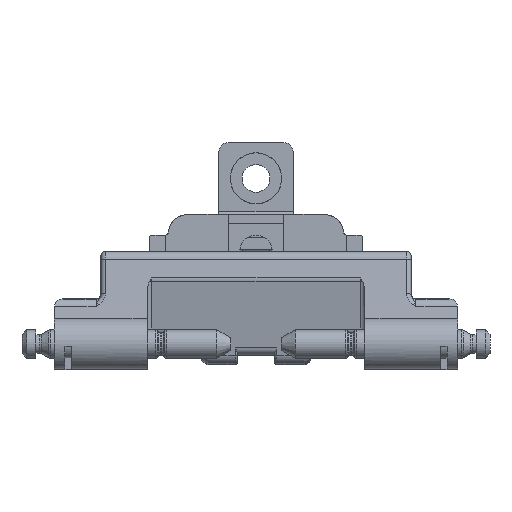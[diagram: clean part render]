
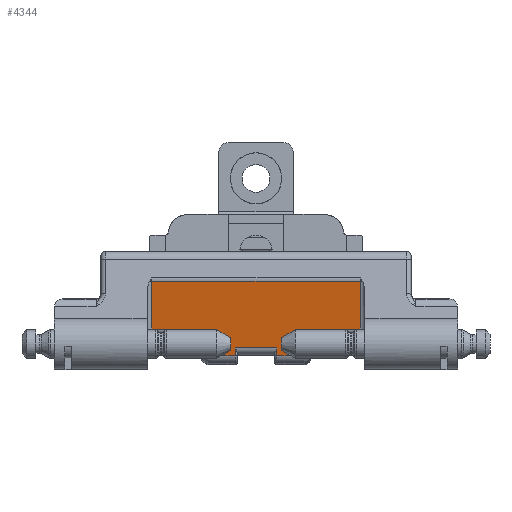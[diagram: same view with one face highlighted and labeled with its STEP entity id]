
A CAD part, left-side view. The second image highlights one B-rep face of the part: STEP entity #4344.
In plain terms, the highlighted planar face has unit normal (-0.985, 0, -0.174).
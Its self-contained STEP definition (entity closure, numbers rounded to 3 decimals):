
#33 = AXIS2_PLACEMENT_3D ( 'NONE', #13171, #4334, #12117 ) ;
#373 = DIRECTION ( 'NONE',  ( -0.174, 0., 0.985 ) ) ;
#484 = LINE ( 'NONE', #11380, #3075 ) ;
#540 = CARTESIAN_POINT ( 'NONE',  ( -270.049, -22.5, -9.44 ) ) ;
#660 = CARTESIAN_POINT ( 'NONE',  ( -267.883, -10., -21.726 ) ) ;
#706 = DIRECTION ( 'NONE',  ( -0.985, 0., -0.174 ) ) ;
#742 = VERTEX_POINT ( 'NONE', #5051 ) ;
#752 = CARTESIAN_POINT ( 'NONE',  ( -268.23, 12., -19.757 ) ) ;
#836 = CARTESIAN_POINT ( 'NONE',  ( -267.215, 10., -25.513 ) ) ;
#960 = ORIENTED_EDGE ( 'NONE', *, *, #5712, .T. ) ;
#1057 = ORIENTED_EDGE ( 'NONE', *, *, #11150, .T. ) ;
#1233 = VERTEX_POINT ( 'NONE', #11835 ) ;
#1389 = CARTESIAN_POINT ( 'NONE',  ( -267.215, 23.5, -25.513 ) ) ;
#1671 = LINE ( 'NONE', #1389, #9820 ) ;
#1735 = CARTESIAN_POINT ( 'NONE',  ( -267.215, -10., -25.513 ) ) ;
#1772 = DIRECTION ( 'NONE',  ( -0.174, 0., 0.985 ) ) ;
#1889 = CARTESIAN_POINT ( 'NONE',  ( -267.015, 22.5, -26.65 ) ) ;
#2050 = AXIS2_PLACEMENT_3D ( 'NONE', #7380, #706, #8467 ) ;
#2053 = ORIENTED_EDGE ( 'NONE', *, *, #12951, .F. ) ;
#2261 = ORIENTED_EDGE ( 'NONE', *, *, #7490, .T. ) ;
#2262 = VERTEX_POINT ( 'NONE', #10297 ) ;
#2347 = EDGE_CURVE ( 'NONE', #2262, #3645, #4927, .T. ) ;
#2499 = DIRECTION ( 'NONE',  ( 0., -1., 0. ) ) ;
#2644 = DIRECTION ( 'NONE',  ( 0.174, 0., -0.985 ) ) ;
#2797 = ORIENTED_EDGE ( 'NONE', *, *, #8575, .T. ) ;
#2827 = EDGE_CURVE ( 'NONE', #5168, #10185, #4219, .T. ) ;
#2973 = DIRECTION ( 'NONE',  ( 0., -1., 0. ) ) ;
#3015 = VECTOR ( 'NONE', #2973, 1000. ) ;
#3075 = VECTOR ( 'NONE', #5856, 1000. ) ;
#3563 = VECTOR ( 'NONE', #2644, 1000. ) ;
#3645 = VERTEX_POINT ( 'NONE', #6856 ) ;
#3742 = CARTESIAN_POINT ( 'NONE',  ( -267.215, 4.5, -25.513 ) ) ;
#3852 = ORIENTED_EDGE ( 'NONE', *, *, #4398, .T. ) ;
#3872 = VERTEX_POINT ( 'NONE', #12889 ) ;
#3874 = VECTOR ( 'NONE', #7138, 1000. ) ;
#4038 = ORIENTED_EDGE ( 'NONE', *, *, #2827, .T. ) ;
#4056 = ORIENTED_EDGE ( 'NONE', *, *, #2347, .F. ) ;
#4219 = LINE ( 'NONE', #11585, #3874 ) ;
#4309 = LINE ( 'NONE', #13269, #6942 ) ;
#4334 = DIRECTION ( 'NONE',  ( -0.985, 0., -0.174 ) ) ;
#4344 = ADVANCED_FACE ( 'NONE', ( #7629 ), #14231, .T. ) ;
#4398 = EDGE_CURVE ( 'NONE', #2262, #14253, #4309, .T. ) ;
#4459 = AXIS2_PLACEMENT_3D ( 'NONE', #6079, #13825, #7212 ) ;
#4577 = CIRCLE ( 'NONE', #2050, 4. ) ;
#4630 = VECTOR ( 'NONE', #373, 1000. ) ;
#4664 = ORIENTED_EDGE ( 'NONE', *, *, #11098, .T. ) ;
#4675 = CARTESIAN_POINT ( 'NONE',  ( -267.215, -4.5, -25.513 ) ) ;
#4898 = EDGE_CURVE ( 'NONE', #1233, #3872, #11772, .T. ) ;
#4927 = CIRCLE ( 'NONE', #4459, 4. ) ;
#5051 = CARTESIAN_POINT ( 'NONE',  ( -268.23, 14., -19.757 ) ) ;
#5105 = VECTOR ( 'NONE', #10774, 1000. ) ;
#5168 = VERTEX_POINT ( 'NONE', #10286 ) ;
#5293 = LINE ( 'NONE', #660, #10127 ) ;
#5342 = LINE ( 'NONE', #13616, #13839 ) ;
#5504 = ORIENTED_EDGE ( 'NONE', *, *, #6002, .T. ) ;
#5712 = EDGE_CURVE ( 'NONE', #10185, #11690, #1671, .T. ) ;
#5856 = DIRECTION ( 'NONE',  ( 0., -1., 0. ) ) ;
#5976 = LINE ( 'NONE', #752, #3015 ) ;
#6002 = EDGE_CURVE ( 'NONE', #14253, #7996, #9985, .T. ) ;
#6079 = CARTESIAN_POINT ( 'NONE',  ( -267.536, -14., -23.696 ) ) ;
#6490 = CARTESIAN_POINT ( 'NONE',  ( -267.509, 23.5, -23.847 ) ) ;
#6708 = VECTOR ( 'NONE', #11911, 1000. ) ;
#6842 = CARTESIAN_POINT ( 'NONE',  ( -270.049, 22.5, -9.44 ) ) ;
#6856 = CARTESIAN_POINT ( 'NONE',  ( -267.536, -10., -23.696 ) ) ;
#6942 = VECTOR ( 'NONE', #14363, 1000. ) ;
#7083 = CARTESIAN_POINT ( 'NONE',  ( -267.509, 4.5, -23.847 ) ) ;
#7138 = DIRECTION ( 'NONE',  ( 0.174, 0., -0.985 ) ) ;
#7212 = DIRECTION ( 'NONE',  ( -0.174, 0., 0.985 ) ) ;
#7333 = VERTEX_POINT ( 'NONE', #6842 ) ;
#7380 = CARTESIAN_POINT ( 'NONE',  ( -267.536, 14., -23.696 ) ) ;
#7490 = EDGE_CURVE ( 'NONE', #3872, #12712, #12774, .T. ) ;
#7510 = CARTESIAN_POINT ( 'NONE',  ( -270.049, -22.5, -9.44 ) ) ;
#7629 = FACE_OUTER_BOUND ( 'NONE', #7657, .T. ) ;
#7657 = EDGE_LOOP ( 'NONE', ( #11291, #2261, #4664, #11040, #4056, #3852, #5504, #9492, #2797, #13922, #2053, #4038, #960, #1057 ) ) ;
#7996 = VERTEX_POINT ( 'NONE', #540 ) ;
#8411 = LINE ( 'NONE', #1889, #5105 ) ;
#8467 = DIRECTION ( 'NONE',  ( -0.174, 0., 0.985 ) ) ;
#8575 = EDGE_CURVE ( 'NONE', #7333, #12149, #8411, .T. ) ;
#9398 = CARTESIAN_POINT ( 'NONE',  ( -268.23, -22.5, -19.757 ) ) ;
#9492 = ORIENTED_EDGE ( 'NONE', *, *, #11104, .T. ) ;
#9751 = DIRECTION ( 'NONE',  ( 0., -1., 0. ) ) ;
#9820 = VECTOR ( 'NONE', #2499, 1000. ) ;
#9985 = LINE ( 'NONE', #7510, #6708 ) ;
#10123 = CARTESIAN_POINT ( 'NONE',  ( -268.23, 22.5, -19.757 ) ) ;
#10127 = VECTOR ( 'NONE', #1772, 1000. ) ;
#10185 = VERTEX_POINT ( 'NONE', #836 ) ;
#10286 = CARTESIAN_POINT ( 'NONE',  ( -267.536, 10., -23.696 ) ) ;
#10297 = CARTESIAN_POINT ( 'NONE',  ( -268.23, -14., -19.757 ) ) ;
#10406 = CARTESIAN_POINT ( 'NONE',  ( -267.215, -4.5, -25.513 ) ) ;
#10557 = LINE ( 'NONE', #7083, #4630 ) ;
#10774 = DIRECTION ( 'NONE',  ( 0.174, 0., -0.985 ) ) ;
#11040 = ORIENTED_EDGE ( 'NONE', *, *, #12929, .T. ) ;
#11098 = EDGE_CURVE ( 'NONE', #12712, #14285, #484, .T. ) ;
#11104 = EDGE_CURVE ( 'NONE', #7996, #7333, #5342, .T. ) ;
#11150 = EDGE_CURVE ( 'NONE', #11690, #1233, #10557, .T. ) ;
#11291 = ORIENTED_EDGE ( 'NONE', *, *, #4898, .T. ) ;
#11380 = CARTESIAN_POINT ( 'NONE',  ( -267.215, 23.5, -25.513 ) ) ;
#11585 = CARTESIAN_POINT ( 'NONE',  ( -267.015, 10., -26.65 ) ) ;
#11690 = VERTEX_POINT ( 'NONE', #3742 ) ;
#11772 = LINE ( 'NONE', #6490, #14344 ) ;
#11835 = CARTESIAN_POINT ( 'NONE',  ( -267.509, 4.5, -23.847 ) ) ;
#11911 = DIRECTION ( 'NONE',  ( -0.174, 0., 0.985 ) ) ;
#12117 = DIRECTION ( 'NONE',  ( -0.174, 0., 0.985 ) ) ;
#12149 = VERTEX_POINT ( 'NONE', #10123 ) ;
#12504 = DIRECTION ( 'NONE',  ( 0., 1., 0. ) ) ;
#12712 = VERTEX_POINT ( 'NONE', #4675 ) ;
#12774 = LINE ( 'NONE', #10406, #3563 ) ;
#12889 = CARTESIAN_POINT ( 'NONE',  ( -267.509, -4.5, -23.847 ) ) ;
#12929 = EDGE_CURVE ( 'NONE', #14285, #3645, #5293, .T. ) ;
#12951 = EDGE_CURVE ( 'NONE', #5168, #742, #4577, .T. ) ;
#13171 = CARTESIAN_POINT ( 'NONE',  ( -267.015, 23.5, -26.65 ) ) ;
#13263 = EDGE_CURVE ( 'NONE', #12149, #742, #5976, .T. ) ;
#13269 = CARTESIAN_POINT ( 'NONE',  ( -268.23, -23.5, -19.757 ) ) ;
#13616 = CARTESIAN_POINT ( 'NONE',  ( -270.049, 23.5, -9.44 ) ) ;
#13825 = DIRECTION ( 'NONE',  ( -0.985, 0., -0.174 ) ) ;
#13839 = VECTOR ( 'NONE', #12504, 1000. ) ;
#13922 = ORIENTED_EDGE ( 'NONE', *, *, #13263, .T. ) ;
#14231 = PLANE ( 'NONE',  #33 ) ;
#14253 = VERTEX_POINT ( 'NONE', #9398 ) ;
#14285 = VERTEX_POINT ( 'NONE', #1735 ) ;
#14344 = VECTOR ( 'NONE', #9751, 1000. ) ;
#14363 = DIRECTION ( 'NONE',  ( 0., -1., 0. ) ) ;
